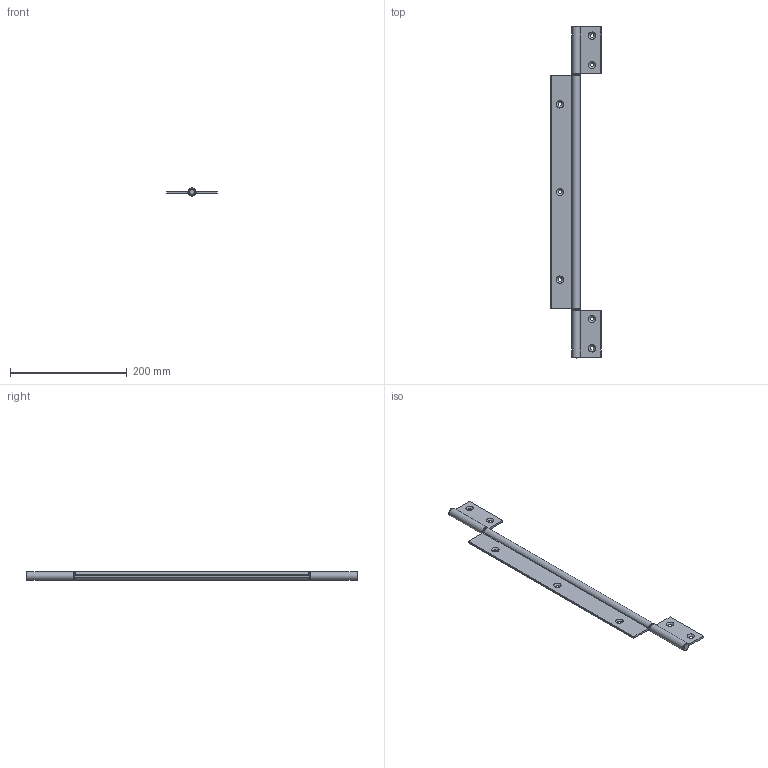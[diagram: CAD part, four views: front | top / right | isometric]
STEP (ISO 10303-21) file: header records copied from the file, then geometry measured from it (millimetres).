
FILE_DESCRIPTION( ( 'STEP AP203' ), '1' );
FILE_NAME( 'C:/Temp/Ganter_Step_05_03_2020/data/3_3/gn2295/Hinge GN 2295-86-565-I-C-EL.stp', '2020-03-12T12:08:03', ( 'License CC BY-ND 4.0' ), ( 'CADENAS' ), ' ', 'PARTsolutions', ' ' );
FILE_SCHEMA( ( 'CONFIG_CONTROL_DESIGN' ) );
Length unit declared in the file: millimetre
Products named in the file (4): Hinge GN 2295-86-565-I-C-EL; _Hinge GN 2295-86-565-I-C-EL-1; _Hinge GN 2295-86-565-I-C-EL-2; _Hinge GN 2295-86-565-I-C-EL-3
Assembly tree (3 placements, depth 2):
  Hinge GN 2295-86-565-I-C-EL
    _Hinge GN 2295-86-565-I-C-EL-1
    _Hinge GN 2295-86-565-I-C-EL-2
    _Hinge GN 2295-86-565-I-C-EL-3
Bounding box: 86 x 568 x 13.97 mm (x, y, z)
Volume: 156359.9 mm3; surface area: 75414.8 mm2
Topology: 3 solids, 3 shells, 91 faces, 238 edges, 156 vertices
Faces by surface type: plane 48, cylinder 34, cone 7, torus 2
Full cylindrical faces by diameter (mm): 6 x2, 6.6 x7, 8 x4, 13.9 x6
Entity records: 2801 total; most frequent: DIRECTION 504, CARTESIAN_POINT 445, ORIENTED_EDGE 404, AXIS2_PLACEMENT_3D 207, EDGE_CURVE 202, VERTEX_POINT 148, EDGE_LOOP 140, FACE_OUTER_BOUND 112
